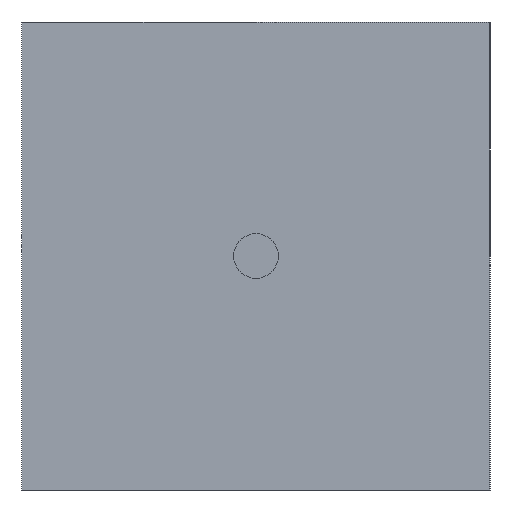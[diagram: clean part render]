
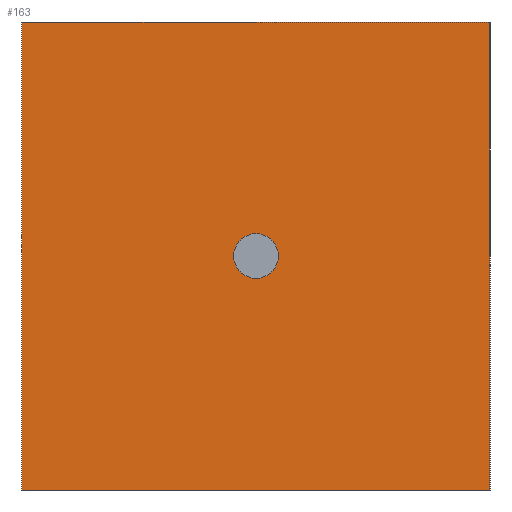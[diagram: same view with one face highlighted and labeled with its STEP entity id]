
A CAD part, left-side view. The second image highlights one B-rep face of the part: STEP entity #163.
In plain terms, the highlighted planar face has unit normal (-1, 0, 0).
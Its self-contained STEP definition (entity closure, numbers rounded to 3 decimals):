
#28=FACE_OUTER_BOUND('',#40,.T.);
#40=EDGE_LOOP('',(#118,#119,#120,#121));
#50=LINE('',#241,#62);
#54=LINE('',#249,#66);
#57=LINE('',#255,#69);
#60=LINE('',#260,#72);
#62=VECTOR('',#195,9.53);
#66=VECTOR('',#201,9.53);
#69=VECTOR('',#206,9.53);
#72=VECTOR('',#211,9.53);
#74=VERTEX_POINT('',#239);
#75=VERTEX_POINT('',#240);
#78=VERTEX_POINT('',#248);
#80=VERTEX_POINT('',#254);
#86=EDGE_CURVE('',#74,#75,#50,.T.);
#90=EDGE_CURVE('',#75,#78,#54,.T.);
#93=EDGE_CURVE('',#78,#80,#57,.T.);
#96=EDGE_CURVE('',#80,#74,#60,.T.);
#118=ORIENTED_EDGE('',*,*,#96,.T.);
#119=ORIENTED_EDGE('',*,*,#86,.T.);
#120=ORIENTED_EDGE('',*,*,#90,.T.);
#121=ORIENTED_EDGE('',*,*,#93,.T.);
#138=PLANE('',#179);
#163=ADVANCED_FACE('',(#28),#138,.F.);
#179=AXIS2_PLACEMENT_3D('',#262,#213,#214);
#195=DIRECTION('',(0.,0.,-1.));
#201=DIRECTION('',(0.,-1.,0.));
#206=DIRECTION('',(0.,0.,1.));
#211=DIRECTION('',(0.,1.,0.));
#213=DIRECTION('center_axis',(1.,0.,0.));
#214=DIRECTION('ref_axis',(0.,0.,-1.));
#239=CARTESIAN_POINT('',(0.,9.53,0.));
#240=CARTESIAN_POINT('',(0.,9.53,-9.53));
#241=CARTESIAN_POINT('',(0.,9.53,0.));
#248=CARTESIAN_POINT('',(0.,0.,-9.53));
#249=CARTESIAN_POINT('',(0.,9.53,-9.53));
#254=CARTESIAN_POINT('',(0.,0.,0.));
#255=CARTESIAN_POINT('',(0.,0.,-9.53));
#260=CARTESIAN_POINT('',(0.,0.,0.));
#262=CARTESIAN_POINT('Origin',(0.,4.765,-4.765));
